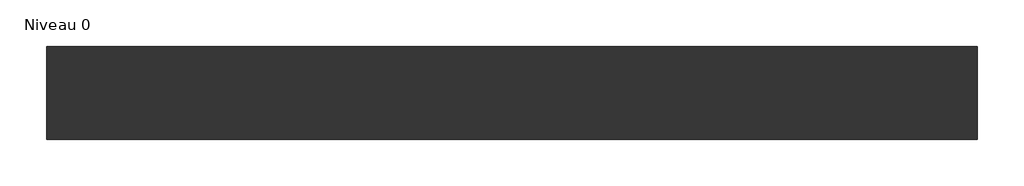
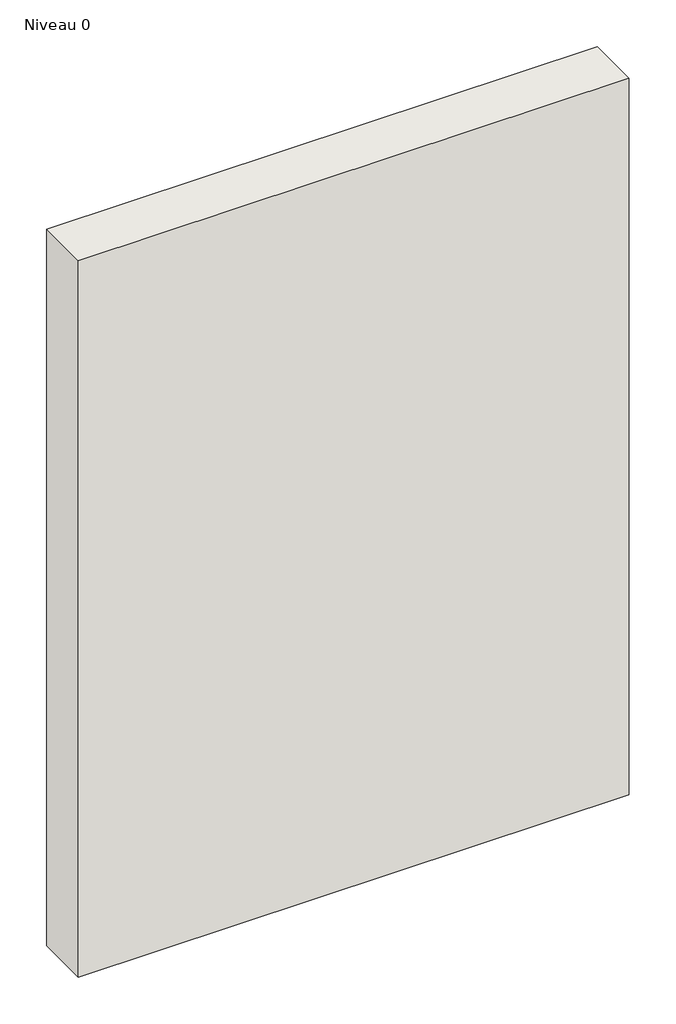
# One storey: 1 wall.
"""IFC4 building model written with IfcOpenShell, lengths in millimetres."""

from ifc_helpers import new_model, si_unit, origin, origin_with_axes, place, context, project, spatial, polyline, outline, extrude, element, save

model = new_model("IFC4")

# Units and contexts
model_context = context("Model", 3, world=origin())
ifc_project = project(units=[si_unit("LENGTHUNIT", "METRE", prefix="MILLI")], contexts=[model_context])

# Site, building, storey
site = spatial("IfcSite", under=ifc_project)
building = spatial("IfcBuilding", under=site)
storey = spatial("IfcBuildingStorey", under=building, Name="Niveau 0", Elevation=0.0)

# Wall
placement = place(None, origin())
element("IfcWall", 1, ObjectType="Générique - Ext. 200 mm", at=placement, inside=storey, context=model_context, shape_type="SweptSolid", body=[
    extrude(outline(polyline([(-2536.1352923, -863.0001729), (-4536.1352923, -863.0001729), (-4536.1352923, -663.0001729), (-2536.1352923, -663.0001729), (-2536.1352923, -863.0001729)])), origin_with_axes(), (0.0, 0.0, 1.0), 2750.0),
])

save(model, "model.ifc")
